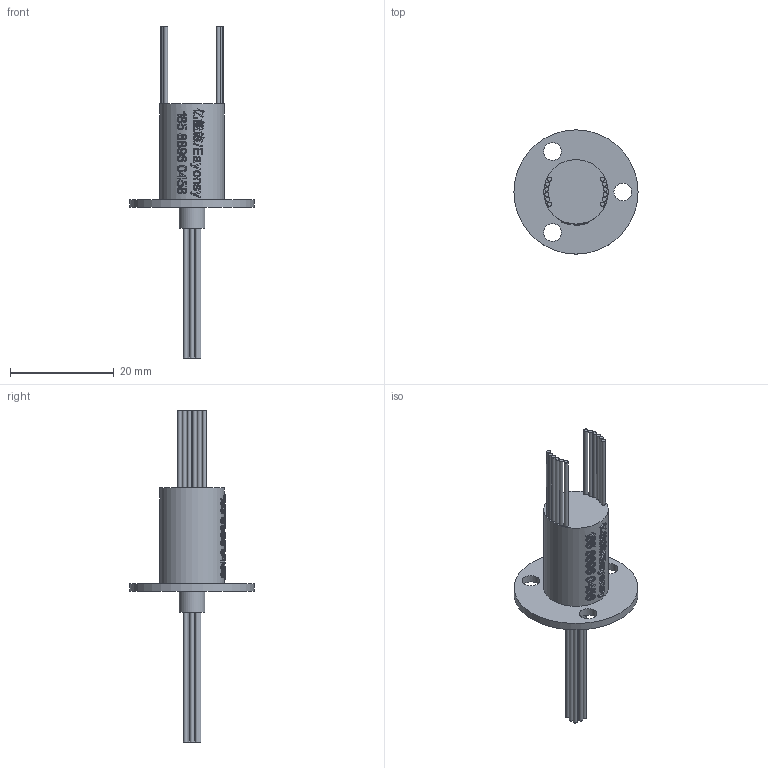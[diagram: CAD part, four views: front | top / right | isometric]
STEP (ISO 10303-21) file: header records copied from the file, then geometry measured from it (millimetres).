
FILE_DESCRIPTION(/* description */ (''),/* implementation_level */ '2;1');
FILE_NAME(/* name */ 'YM012-12.stp',/* time_stamp */ '2025-09-05T08:27:44+08:00',/* author */ (''),/* organization */ (''),/* preprocessor_version */ 'ST-DEVELOPER v16.7',/* originating_system */ 'SIEMENS PLM Software NX 12.0',/* authorisation */ '');
FILE_SCHEMA (('AUTOMOTIVE_DESIGN { 1 0 10303 214 3 1 1 1 }'));
Length unit declared in the file: millimetre
Products named in the file (1): Admi30D0F06639zl
Bounding box: 23.9 x 23.9 x 63.9 mm (x, y, z)
Volume: 3177.7 mm3; surface area: 3034 mm2
Topology: 1 solids, 1 shells, 739 faces, 2000 edges, 1334 vertices
Faces by surface type: extrusion 450, plane 214, cylinder 46, bspline 29
Full cylindrical faces by diameter (mm): 0.8 x24, 3.4 x3, 5 x1, 12.4 x1, 23.9 x1
Entity records: 30775 total; most frequent: CARTESIAN_POINT 15438, ORIENTED_EDGE 3936, B_SPLINE_CURVE_WITH_KNOTS 2116, EDGE_CURVE 1968, DIRECTION 1464, VERTEX_POINT 1332, EDGE_LOOP 846, ADVANCED_FACE 739
